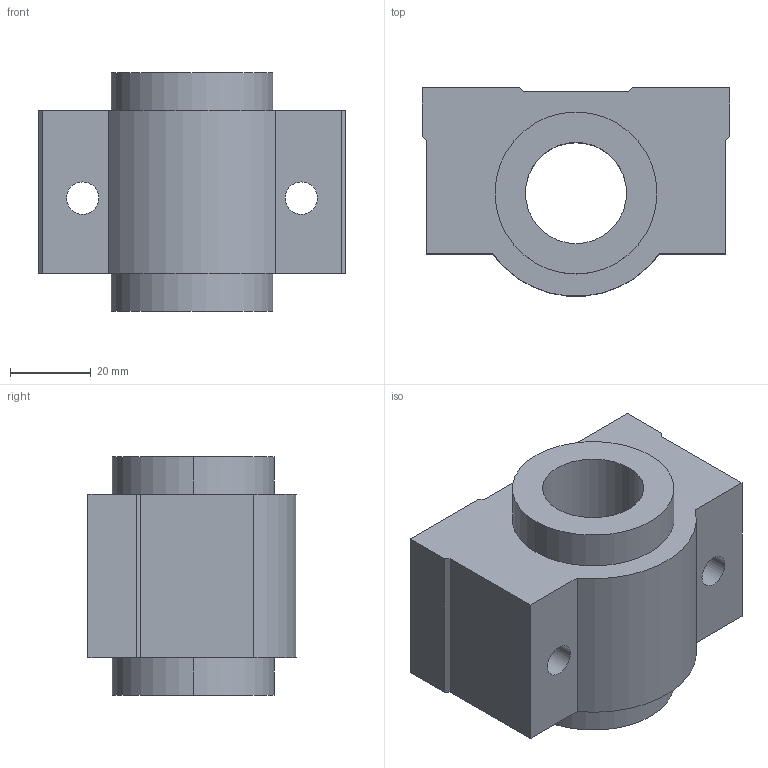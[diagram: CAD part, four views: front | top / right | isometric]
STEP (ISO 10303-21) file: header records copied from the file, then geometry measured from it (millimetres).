
FILE_DESCRIPTION((''),'2;1');
FILE_NAME('C:\Documents and Settings\ｿﾀﾀ蠑ｷ1\ｹﾙﾅﾁ ﾈｭｸ饅\ｺﾎﾇｰﾆﾄﾀﾏ\ﾁｦﾇｰ\SCE__VUU\SCE25VUU.stp','2005-06-22T15:11:25',('ｿﾀﾀ蠑ｷ1'),(''),'Autodesk Inventor 9','Autodesk Inventor 9','');
FILE_SCHEMA(('AUTOMOTIVE_DESIGN { 1 0 10303 214 1 1 1 1 }'));
Length unit declared in the file: millimetre
Products named in the file (1): SCE__VUU
Bounding box: 76 x 51.41 x 59 mm (x, y, z)
Volume: 125031 mm3; surface area: 24233.5 mm2
Topology: 1 solids, 1 shells, 28 faces, 72 edges, 48 vertices
Faces by surface type: plane 17, cylinder 7, bspline 4
Entity records: 945 total; most frequent: CARTESIAN_POINT 217, DIRECTION 144, ORIENTED_EDGE 144, EDGE_CURVE 72, VECTOR 50, LINE 50, VERTEX_POINT 48, AXIS2_PLACEMENT_3D 47
